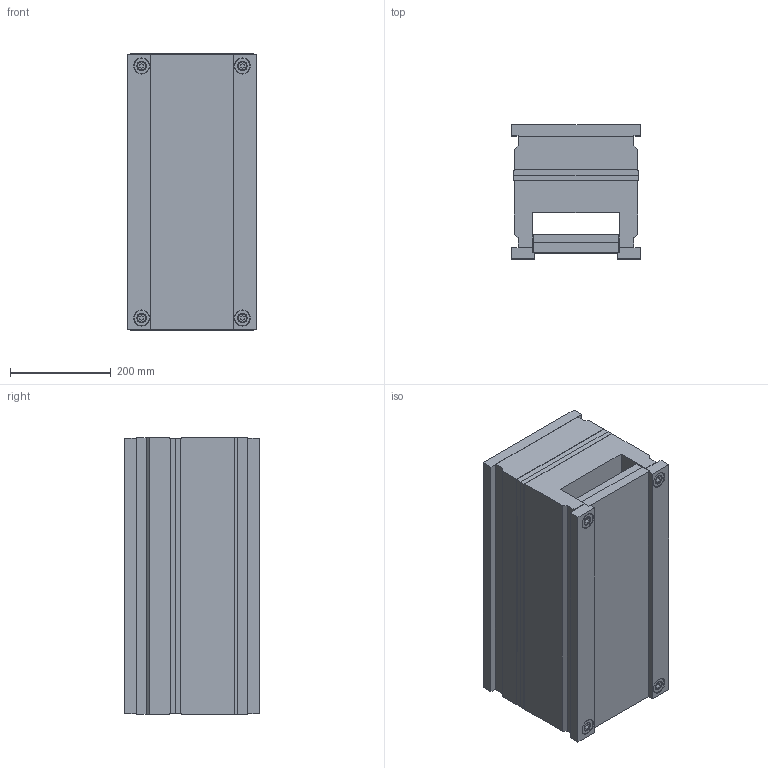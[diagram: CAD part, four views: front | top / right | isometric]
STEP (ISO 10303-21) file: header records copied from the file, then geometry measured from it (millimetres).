
FILE_DESCRIPTION (( 'STEP AP214' ), '1' );
FILE_NAME ('2467.STEP', '2002-07-10T07:55:25', ( 'Simcha Kilim' ), ( 'K. Plastics Engineering' ), 'SwSTEP 2.0', 'SolidWorks 2002025', '' );
FILE_SCHEMA (( 'AUTOMOTIVE_DESIGN' ));
Length unit declared in the file: millimetre
Products named in the file (12): 2467; ALMO (ejector half)_2467; ALMO (ejector plate)_2467; ALMO (hot half)_2467; ALMO (ejector return plate)_2467; ALMO (guide bush)_Ø18; ALMO (guide bush)_Ø19; ALMO (key plate)_Ø18; ALMO (guide pin)_Ø18; ALMO (screw)_M10x120; ALMO (screw)_M10x70; ALMO (guide pin)_Ø19
Assembly tree (28 placements, depth 2):
  2467
    ALMO (hot half)_2467
    ALMO (screw)_M10x70  x4
    ALMO (key plate)_Ø18  x8
    ALMO (guide bush)_Ø19
    ALMO (guide pin)_Ø19
    ALMO (guide pin)_Ø18  x3
    ALMO (guide bush)_Ø18  x3
    ALMO (screw)_M10x120  x4
    ALMO (ejector plate)_2467
    ALMO (ejector return plate)_2467
    ALMO (ejector half)_2467
Bounding box: 255 x 266 x 548 mm (x, y, z)
Volume: 30083969.1 mm3; surface area: 1684341.9 mm2
Topology: 28 solids, 28 shells, 706 faces, 1496 edges, 924 vertices
Faces by surface type: cylinder 260, plane 254, cone 192
Entity records: 10477 total; most frequent: DIRECTION 1914, CARTESIAN_POINT 1683, ORIENTED_EDGE 1584, EDGE_CURVE 792, AXIS2_PLACEMENT_3D 729, VERTEX_POINT 498, LINE 456, VECTOR 456
